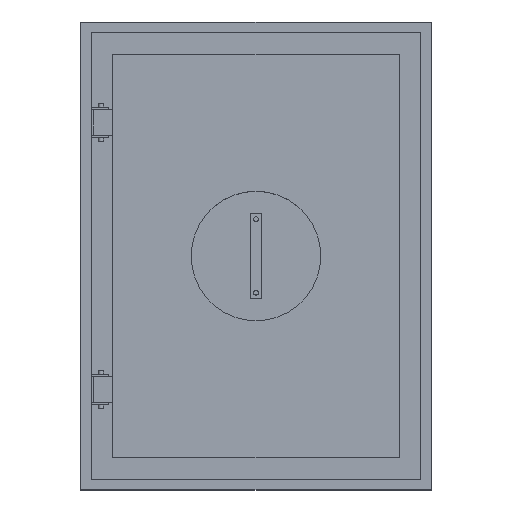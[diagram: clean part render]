
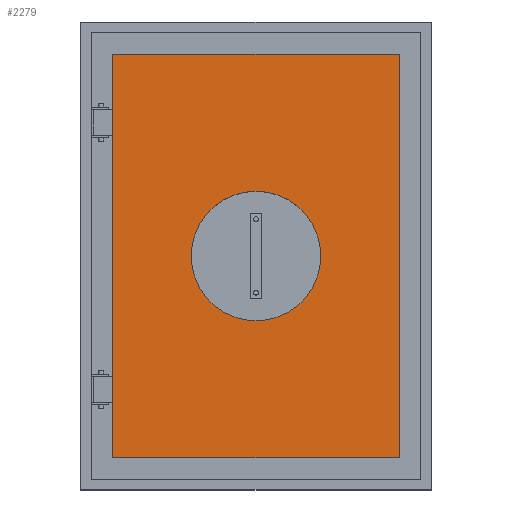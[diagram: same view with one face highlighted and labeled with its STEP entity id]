
A CAD part, top view. The second image highlights one B-rep face of the part: STEP entity #2279.
In plain terms, the highlighted planar face has unit normal (0, 0, 1).
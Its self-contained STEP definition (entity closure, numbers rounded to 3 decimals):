
#411=DIRECTION('',(0.,-1.,0.));
#412=VECTOR('',#411,1372.);
#413=CARTESIAN_POINT('',(-486.,686.,-16.));
#414=LINE('',#413,#412);
#415=DIRECTION('',(-1.,0.,0.));
#416=VECTOR('',#415,972.);
#417=CARTESIAN_POINT('',(486.,686.,-16.));
#418=LINE('',#417,#416);
#419=DIRECTION('',(0.,1.,0.));
#420=VECTOR('',#419,1372.);
#421=CARTESIAN_POINT('',(486.,-686.,-16.));
#422=LINE('',#421,#420);
#423=DIRECTION('',(1.,0.,0.));
#424=VECTOR('',#423,972.);
#425=CARTESIAN_POINT('',(-486.,-686.,-16.));
#426=LINE('',#425,#424);
#427=CARTESIAN_POINT('',(0.,0.,-16.));
#428=DIRECTION('',(0.,0.,1.));
#429=DIRECTION('',(1.,0.,0.));
#430=AXIS2_PLACEMENT_3D('',#427,#428,#429);
#432=CARTESIAN_POINT('',(0.,0.,-16.));
#433=DIRECTION('',(0.,0.,1.));
#434=DIRECTION('',(-1.,0.,0.));
#435=AXIS2_PLACEMENT_3D('',#432,#433,#434);
#1395=CARTESIAN_POINT('',(-486.,686.,-16.));
#1396=CARTESIAN_POINT('',(-486.,-686.,-16.));
#1397=VERTEX_POINT('',#1395);
#1398=VERTEX_POINT('',#1396);
#1399=CARTESIAN_POINT('',(486.,-686.,-16.));
#1400=VERTEX_POINT('',#1399);
#1401=CARTESIAN_POINT('',(486.,686.,-16.));
#1402=VERTEX_POINT('',#1401);
#1693=CARTESIAN_POINT('',(220.,0.,-16.));
#1694=CARTESIAN_POINT('',(-220.,0.,-16.));
#1695=VERTEX_POINT('',#1693);
#1696=VERTEX_POINT('',#1694);
#2262=CARTESIAN_POINT('',(0.,0.,-16.));
#2263=DIRECTION('',(0.,0.,1.));
#2264=DIRECTION('',(1.,0.,0.));
#2265=AXIS2_PLACEMENT_3D('',#2262,#2263,#2264);
#2266=PLANE('',#2265);
#2267=ORIENTED_EDGE('',*,*,#2170,.F.);
#2268=ORIENTED_EDGE('',*,*,#2208,.F.);
#2269=ORIENTED_EDGE('',*,*,#2229,.F.);
#2270=ORIENTED_EDGE('',*,*,#2249,.F.);
#2271=EDGE_LOOP('',(#2267,#2268,#2269,#2270));
#2272=FACE_OUTER_BOUND('',#2271,.F.);
#2274=ORIENTED_EDGE('',*,*,#2273,.T.);
#2276=ORIENTED_EDGE('',*,*,#2275,.T.);
#2277=EDGE_LOOP('',(#2274,#2276));
#2278=FACE_BOUND('',#2277,.F.);
#431=CIRCLE('',#430,220.);
#436=CIRCLE('',#435,220.);
#2170=EDGE_CURVE('',#1397,#1398,#414,.T.);
#2208=EDGE_CURVE('',#1402,#1397,#418,.T.);
#2229=EDGE_CURVE('',#1400,#1402,#422,.T.);
#2249=EDGE_CURVE('',#1398,#1400,#426,.T.);
#2273=EDGE_CURVE('',#1695,#1696,#431,.T.);
#2275=EDGE_CURVE('',#1696,#1695,#436,.T.);
#2279=ADVANCED_FACE('',(#2272,#2278),#2266,.T.);
